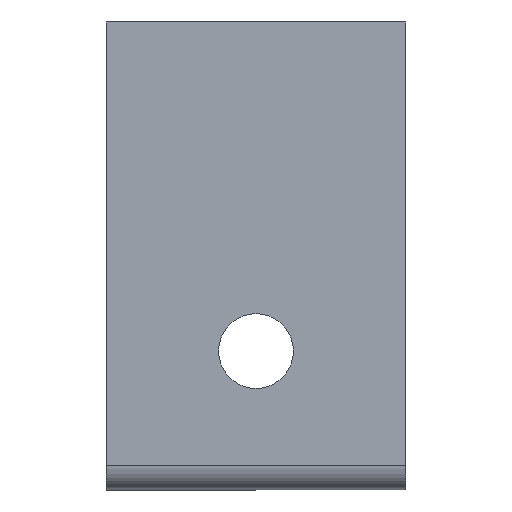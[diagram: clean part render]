
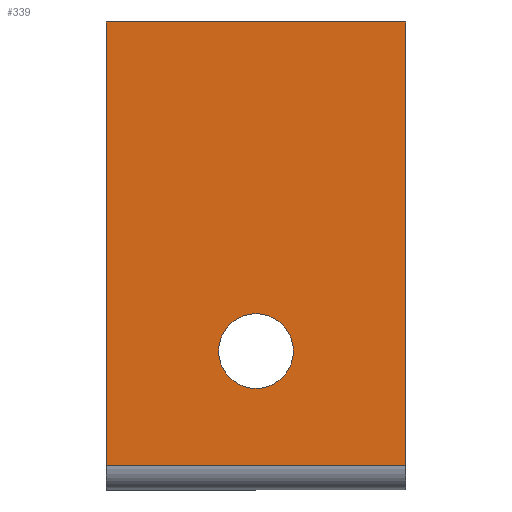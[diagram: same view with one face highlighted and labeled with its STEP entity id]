
A CAD part, front view. The second image highlights one B-rep face of the part: STEP entity #339.
In plain terms, the highlighted planar face has unit normal (0, -1, 0).
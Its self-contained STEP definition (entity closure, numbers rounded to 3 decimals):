
#18 = VERTEX_POINT ( 'NONE', #684 ) ;
#25 = EDGE_CURVE ( 'NONE', #1116, #790, #1714, .T. ) ;
#50 = AXIS2_PLACEMENT_3D ( 'NONE', #71, #1171, #1571 ) ;
#71 = CARTESIAN_POINT ( 'NONE',  ( 0., 0., 0. ) ) ;
#107 = EDGE_LOOP ( 'NONE', ( #1419, #1395, #1718, #745 ) ) ;
#134 = EDGE_CURVE ( 'NONE', #664, #1116, #1211, .T. ) ;
#148 = CARTESIAN_POINT ( 'NONE',  ( 0., 0., 0. ) ) ;
#163 = LINE ( 'NONE', #1754, #1558 ) ;
#164 = VECTOR ( 'NONE', #985, 1000. ) ;
#278 = VERTEX_POINT ( 'NONE', #1430 ) ;
#339 = ADVANCED_FACE ( 'NONE', ( #783, #526 ), #918, .T. ) ;
#357 = CIRCLE ( 'NONE', #1535, 7.5 ) ;
#378 = EDGE_LOOP ( 'NONE', ( #1036, #448 ) ) ;
#448 = ORIENTED_EDGE ( 'NONE', *, *, #504, .T. ) ;
#452 = CARTESIAN_POINT ( 'NONE',  ( 60., 0., -88.858 ) ) ;
#453 = DIRECTION ( 'NONE',  ( 0., 0., 1. ) ) ;
#504 = EDGE_CURVE ( 'NONE', #278, #18, #357, .T. ) ;
#515 = EDGE_CURVE ( 'NONE', #664, #1567, #1626, .T. ) ;
#526 = FACE_OUTER_BOUND ( 'NONE', #107, .T. ) ;
#585 = CARTESIAN_POINT ( 'NONE',  ( 30., 0., -66. ) ) ;
#664 = VERTEX_POINT ( 'NONE', #919 ) ;
#684 = CARTESIAN_POINT ( 'NONE',  ( 30., 0., -58.5 ) ) ;
#700 = AXIS2_PLACEMENT_3D ( 'NONE', #1248, #1648, #986 ) ;
#708 = VECTOR ( 'NONE', #1762, 1000. ) ;
#745 = ORIENTED_EDGE ( 'NONE', *, *, #25, .F. ) ;
#783 = FACE_BOUND ( 'NONE', #378, .T. ) ;
#790 = VERTEX_POINT ( 'NONE', #1467 ) ;
#826 = VECTOR ( 'NONE', #1408, 1000. ) ;
#870 = CARTESIAN_POINT ( 'NONE',  ( 0., 0., -88.858 ) ) ;
#918 = PLANE ( 'NONE',  #50 ) ;
#919 = CARTESIAN_POINT ( 'NONE',  ( 0., 0., -88.858 ) ) ;
#985 = DIRECTION ( 'NONE',  ( 0., 0., 1. ) ) ;
#986 = DIRECTION ( 'NONE',  ( 0., 0., 1. ) ) ;
#1024 = DIRECTION ( 'NONE',  ( 0., 1., 0. ) ) ;
#1036 = ORIENTED_EDGE ( 'NONE', *, *, #1400, .T. ) ;
#1116 = VERTEX_POINT ( 'NONE', #148 ) ;
#1171 = DIRECTION ( 'NONE',  ( 0., -1., 0. ) ) ;
#1211 = LINE ( 'NONE', #1230, #164 ) ;
#1226 = DIRECTION ( 'NONE',  ( 0., 0., -1. ) ) ;
#1230 = CARTESIAN_POINT ( 'NONE',  ( 0., 0., 0. ) ) ;
#1248 = CARTESIAN_POINT ( 'NONE',  ( 30., 0., -66. ) ) ;
#1336 = EDGE_CURVE ( 'NONE', #790, #1567, #163, .T. ) ;
#1340 = CIRCLE ( 'NONE', #700, 7.5 ) ;
#1360 = CARTESIAN_POINT ( 'NONE',  ( 0., 0., 0. ) ) ;
#1395 = ORIENTED_EDGE ( 'NONE', *, *, #515, .T. ) ;
#1400 = EDGE_CURVE ( 'NONE', #18, #278, #1340, .T. ) ;
#1408 = DIRECTION ( 'NONE',  ( 1., 0., 0. ) ) ;
#1419 = ORIENTED_EDGE ( 'NONE', *, *, #134, .F. ) ;
#1430 = CARTESIAN_POINT ( 'NONE',  ( 30., 0., -73.5 ) ) ;
#1467 = CARTESIAN_POINT ( 'NONE',  ( 60., 0., 0. ) ) ;
#1535 = AXIS2_PLACEMENT_3D ( 'NONE', #585, #1024, #453 ) ;
#1558 = VECTOR ( 'NONE', #1226, 1000. ) ;
#1567 = VERTEX_POINT ( 'NONE', #452 ) ;
#1571 = DIRECTION ( 'NONE',  ( 0., 0., -1. ) ) ;
#1626 = LINE ( 'NONE', #870, #826 ) ;
#1648 = DIRECTION ( 'NONE',  ( 0., 1., 0. ) ) ;
#1714 = LINE ( 'NONE', #1360, #708 ) ;
#1718 = ORIENTED_EDGE ( 'NONE', *, *, #1336, .F. ) ;
#1754 = CARTESIAN_POINT ( 'NONE',  ( 60., 0., 0. ) ) ;
#1762 = DIRECTION ( 'NONE',  ( 1., 0., 0. ) ) ;
